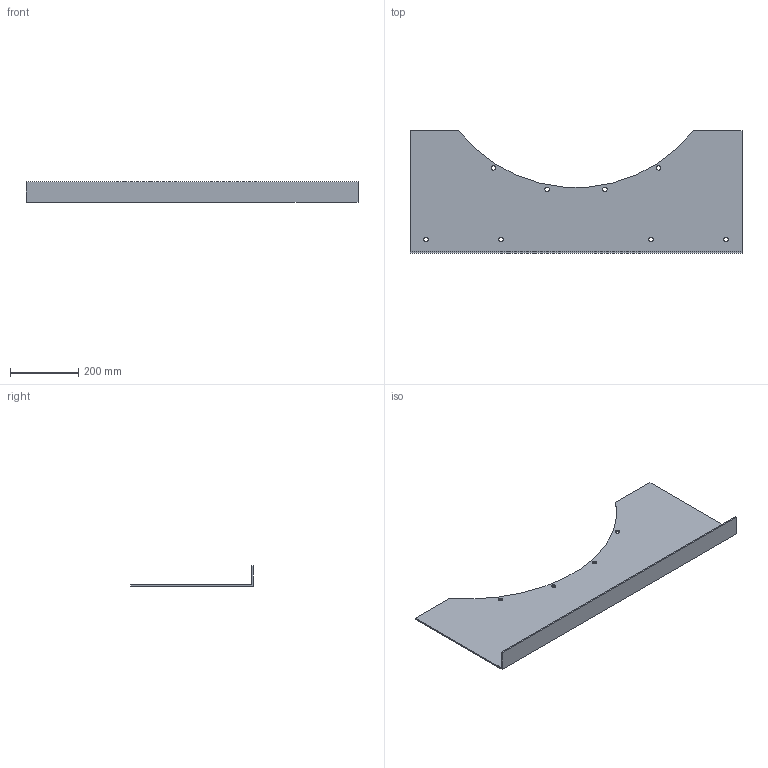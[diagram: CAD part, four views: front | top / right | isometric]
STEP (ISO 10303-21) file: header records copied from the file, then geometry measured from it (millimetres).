
FILE_DESCRIPTION(('STEP AP214'),'1');
FILE_NAME('accessory_5138881700.stp','2017-10-09T07:39:20',('TraceParts'),('TraceParts S.A.'),'Spatial InterOp 3D',' ',' ');
FILE_SCHEMA(('automotive_design'));
Length unit declared in the file: millimetre
Products named in the file (1): accessory_5138881700
Bounding box: 974 x 360 x 60 mm (x, y, z)
Volume: 1295199.8 mm3; surface area: 660439.4 mm2
Topology: 1 solids, 1 shells, 26 faces, 72 edges, 48 vertices
Faces by surface type: cylinder 17, plane 9
Entity records: 1106 total; most frequent: DIRECTION 160, CARTESIAN_POINT 147, ORIENTED_EDGE 144, EDGE_CURVE 72, AXIS2_PLACEMENT_3D 61, VERTEX_POINT 48, EDGE_LOOP 42, LINE 38
